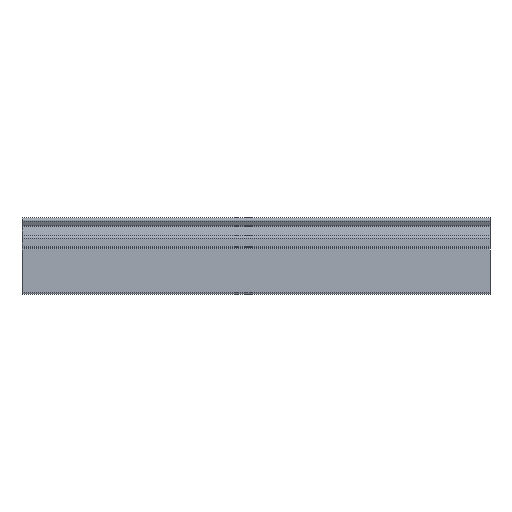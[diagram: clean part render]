
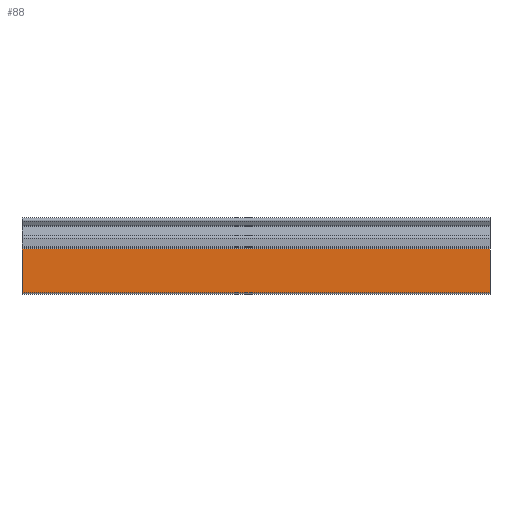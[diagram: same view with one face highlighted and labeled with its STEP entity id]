
A CAD part, front view. The second image highlights one B-rep face of the part: STEP entity #88.
In plain terms, the highlighted planar face has unit normal (0, -1, 0).
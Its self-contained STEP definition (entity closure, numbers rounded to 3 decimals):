
#88=ADVANCED_FACE('',(#224),#225,.F.);
#224=FACE_OUTER_BOUND('',#405,.T.);
#225=PLANE('',#406);
#405=EDGE_LOOP('',(#595,#596,#597,#598));
#406=AXIS2_PLACEMENT_3D('',#599,#600,#601);
#595=ORIENTED_EDGE('',*,*,#1154,.T.);
#596=ORIENTED_EDGE('',*,*,#1155,.F.);
#597=ORIENTED_EDGE('',*,*,#1156,.F.);
#598=ORIENTED_EDGE('',*,*,#1157,.T.);
#599=CARTESIAN_POINT('',(100.0,-9.337,-0.3));
#600=DIRECTION('',(0.0,1.,0.));
#601=DIRECTION('',(0.0,0.,1.));
#1154=EDGE_CURVE('',#1392,#1393,#1394,.T.);
#1155=EDGE_CURVE('',#1395,#1393,#1396,.T.);
#1156=EDGE_CURVE('',#1397,#1395,#1398,.T.);
#1157=EDGE_CURVE('',#1397,#1392,#1399,.T.);
#1392=VERTEX_POINT('',#1736);
#1393=VERTEX_POINT('',#1737);
#1394=LINE('',#1738,#1739);
#1395=VERTEX_POINT('',#1740);
#1396=LINE('',#1741,#1742);
#1397=VERTEX_POINT('',#1743);
#1398=LINE('',#1744,#1745);
#1399=LINE('',#1746,#1747);
#1736=CARTESIAN_POINT('',(0.0,-9.337,-0.3));
#1737=CARTESIAN_POINT('',(0.0,-9.337,-9.7));
#1738=CARTESIAN_POINT('',(0.0,-9.337,-0.3));
#1739=VECTOR('',#2176,1.0);
#1740=CARTESIAN_POINT('',(100.0,-9.337,-9.7));
#1741=CARTESIAN_POINT('',(100.0,-9.337,-9.7));
#1742=VECTOR('',#2177,1.0);
#1743=CARTESIAN_POINT('',(100.0,-9.337,-0.3));
#1744=CARTESIAN_POINT('',(100.0,-9.337,-0.3));
#1745=VECTOR('',#2178,1.0);
#1746=CARTESIAN_POINT('',(100.0,-9.337,-0.3));
#1747=VECTOR('',#2179,1.0);
#2176=DIRECTION('',(0.0,0.,-1.));
#2177=DIRECTION('',(-1.0,0.0,0.0));
#2178=DIRECTION('',(0.0,0.,-1.));
#2179=DIRECTION('',(-1.0,0.0,0.0));
